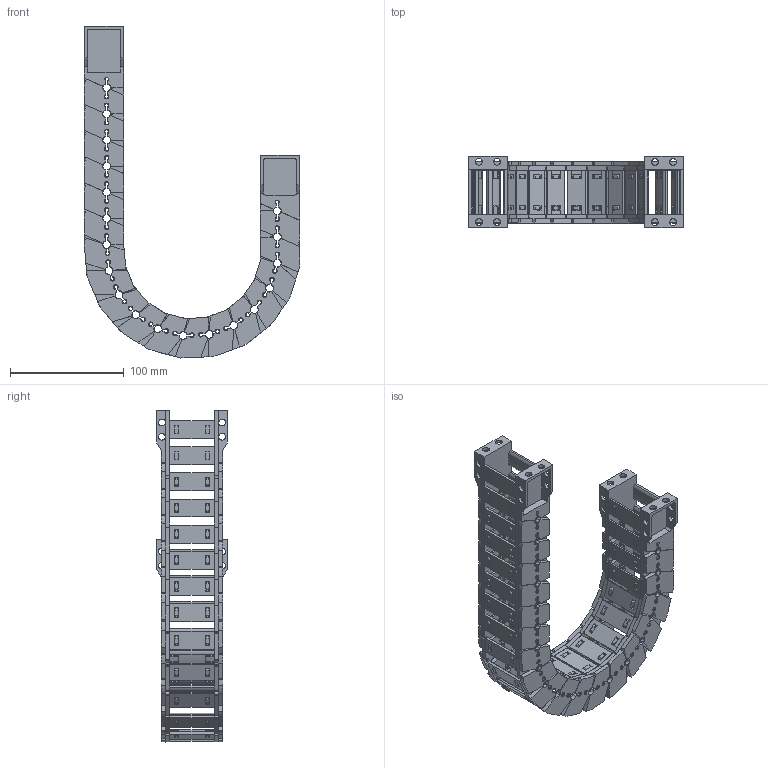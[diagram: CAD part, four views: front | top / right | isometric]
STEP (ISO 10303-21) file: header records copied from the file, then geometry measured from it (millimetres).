
FILE_DESCRIPTION(/* description */ (''),/* implementation_level */ '2;1');
FILE_NAME(/* name */ 'JY28-38-R75.stp',/* time_stamp */ '2026-06-03T13:54:15+08:00',/* author */ (''),/* organization */ (''),/* preprocessor_version */ 'ST-DEVELOPER v19.4',/* originating_system */ 'SIEMENS PLM Software NX2306.5001',/* authorisation */ '');
FILE_SCHEMA (('AP203_CONFIGURATION_CONTROLLED_3D_DESIGN_OF_MECHANICAL_PARTS_AND_ASSEMBLIES_MIM_LF { 1 0 10303 403 2 1 2}'));
Products named in the file (1): _model1_objects
Bounding box: 189.55 x 63 x 292.17 mm (x, y, z)
Volume: 297243.4 mm3; surface area: 218804.4 mm2
Topology: 74 solids, 74 shells, 6194 faces, 17618 edges, 11518 vertices
Faces by surface type: plane 4058, cone 1120, cylinder 978, bspline 36, torus 2
Full cylindrical faces by diameter (mm): 6 x24
Entity records: 209461 total; most frequent: CARTESIAN_POINT 46487, ORIENTED_EDGE 35144, DIRECTION 33002, EDGE_CURVE 17572, LINE 11632, VECTOR 11632, VERTEX_POINT 11496, AXIS2_PLACEMENT_3D 10685
